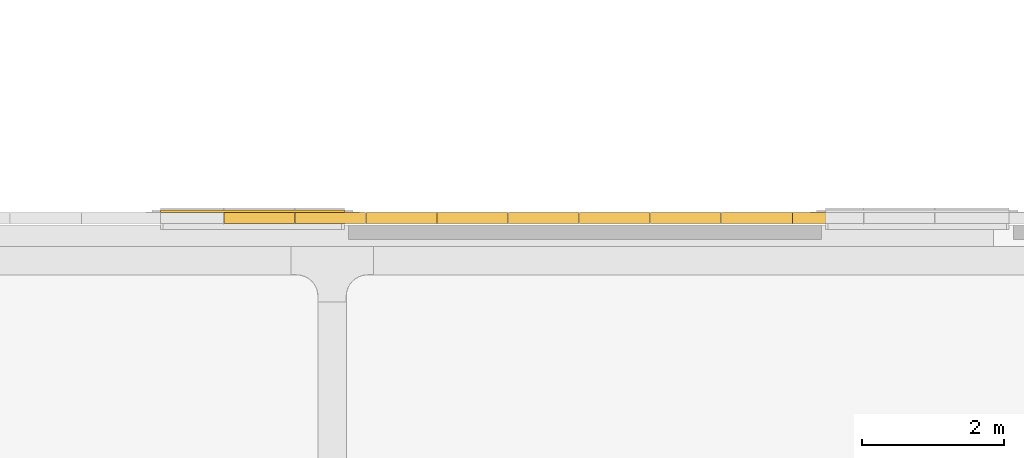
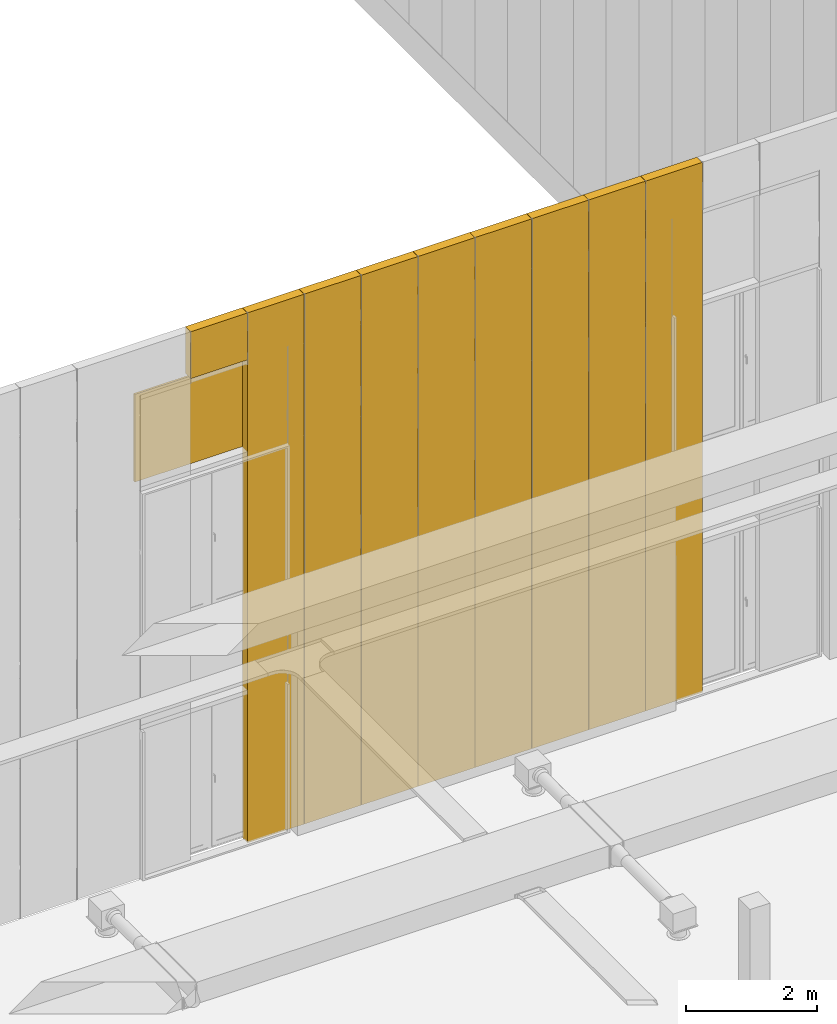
# One storey, part 235 of 302: 10 curtain walls, 1 element without a shape of its own.
"""IFC2X3 building model written with IfcOpenShell, lengths in metres."""

from ifc_helpers import new_model, entity, si_unit, converted_unit, derived_unit, direction, frame, frame_2d, origin, place, context, subcontext, project, spatial, rectangle, extrude, material, layer, layer_set, layer_usage, type_object, element, aggregate, save


model = new_model("IFC2X3")

# Units and contexts
model_context = context("Model", 3, precision=1e-05, world=origin(), true_north=direction((6.12303176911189e-17, 1.0)))
body_context = subcontext(model_context, "Body", "Model", "MODEL_VIEW")
ifc_project = project(units=[si_unit("LENGTHUNIT", "METRE"), si_unit("AREAUNIT", "SQUARE_METRE"), si_unit("VOLUMEUNIT", "CUBIC_METRE"), converted_unit("PLANEANGLEUNIT", "DEGREE", entity("IfcRatioMeasure", 0.0174532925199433), si_unit("PLANEANGLEUNIT", "RADIAN"), dimensions=[0, 0, 0, 0, 0, 0, 0]), si_unit("MASSUNIT", "GRAM", prefix="KILO"), derived_unit("MASSDENSITYUNIT", [(si_unit("MASSUNIT", "GRAM", prefix="KILO"), 1), (si_unit("LENGTHUNIT", "METRE"), -3)]), derived_unit("MOMENTOFINERTIAUNIT", [(si_unit("LENGTHUNIT", "METRE"), 4)]), si_unit("TIMEUNIT", "SECOND"), si_unit("FREQUENCYUNIT", "HERTZ"), si_unit("THERMODYNAMICTEMPERATUREUNIT", "DEGREE_CELSIUS"), derived_unit("THERMALTRANSMITTANCEUNIT", [(si_unit("MASSUNIT", "GRAM", prefix="KILO"), 1), (si_unit("THERMODYNAMICTEMPERATUREUNIT", "KELVIN"), -1), (si_unit("TIMEUNIT", "SECOND"), -3)]), derived_unit("VOLUMETRICFLOWRATEUNIT", [(si_unit("LENGTHUNIT", "METRE"), 3), (si_unit("TIMEUNIT", "SECOND"), -1)]), si_unit("ELECTRICCURRENTUNIT", "AMPERE"), si_unit("ELECTRICVOLTAGEUNIT", "VOLT"), si_unit("POWERUNIT", "WATT"), si_unit("FORCEUNIT", "NEWTON", prefix="KILO"), si_unit("ILLUMINANCEUNIT", "LUX"), si_unit("LUMINOUSFLUXUNIT", "LUMEN"), si_unit("LUMINOUSINTENSITYUNIT", "CANDELA"), derived_unit("USERDEFINED", [(si_unit("MASSUNIT", "GRAM", prefix="KILO"), -1), (si_unit("LENGTHUNIT", "METRE"), -2), (si_unit("TIMEUNIT", "SECOND"), 3), (si_unit("LUMINOUSFLUXUNIT", "LUMEN"), 1)]), derived_unit("LINEARVELOCITYUNIT", [(si_unit("LENGTHUNIT", "METRE"), 1), (si_unit("TIMEUNIT", "SECOND"), -1)]), si_unit("PRESSUREUNIT", "PASCAL"), derived_unit("USERDEFINED", [(si_unit("LENGTHUNIT", "METRE"), -2), (si_unit("MASSUNIT", "GRAM", prefix="KILO"), 1), (si_unit("TIMEUNIT", "SECOND"), -2)]), derived_unit("LINEARFORCEUNIT", [(si_unit("MASSUNIT", "GRAM", prefix="KILO"), 1), (si_unit("LENGTHUNIT", "METRE"), 1), (si_unit("TIMEUNIT", "SECOND"), -2), (si_unit("LENGTHUNIT", "METRE"), -1)]), derived_unit("PLANARFORCEUNIT", [(si_unit("MASSUNIT", "GRAM", prefix="KILO"), 1), (si_unit("LENGTHUNIT", "METRE"), 1), (si_unit("TIMEUNIT", "SECOND"), -2), (si_unit("LENGTHUNIT", "METRE"), -2)])], contexts=[model_context])

# Site, building, storey
site_placement = place(None, origin())
site = spatial("IfcSite", under=ifc_project, at=site_placement, Name="Default", CompositionType="ELEMENT")
building_placement = place(site_placement, origin())
building = spatial("IfcBuilding", under=site, at=building_placement, CompositionType="ELEMENT")
storey_placement = place(building_placement, frame((0.0, 0.0, -1.3)))
storey = spatial("IfcBuildingStorey", under=building, at=storey_placement, Name="00_EG", CompositionType="ELEMENT", Elevation=-1.3)

# Curtain walls
curtain_wall_type_1 = type_object("IfcCurtainWallType", Name="Fassade:Curtain Wall 1", PredefinedType="NOTDEFINED")
curtain_wall_1_placement = place(storey_placement, frame((0.0, 0.0, 1.3)))
curtain_wall_1 = element("IfcCurtainWall", 1, at=curtain_wall_1_placement, inside=storey, type_object=curtain_wall_type_1, Name="Fassade:Curtain Wall 1", ObjectType="Fassade:Curtain Wall 1")
ifc_material_1 = material(Name="Prepainted_Steel-ArcelorMittal_Construction_HAIRULTRA-35-CORAL-4309-[RAL_3000]")
ifc_layer_1 = layer(ifc_material_1, 0.015)
ifc_material_2 = material(Name="ArcelorMittal-MineralWool")
ifc_layer_2 = layer(ifc_material_2, 0.13)
ifc_material_3 = material(Name="Prepainted_Steel-ArcelorMittal_Construction_INTÉRIEUR-12-WHITE-912")
ifc_layer_3 = layer(ifc_material_3, 0.015)
ifc_layer_set_1 = layer_set([ifc_layer_1, ifc_layer_2, ifc_layer_3], Name="Fassade:Sandwichpaneele 16cm")
ifc_layer_usage_1 = layer_usage(ifc_layer_set_1, "AXIS2", "POSITIVE", -0.08)
curtain_wall_type_2 = type_object("IfcCurtainWallType", Name="Basiswand:Sandwichpaneele d = 16cm aussen", PredefinedType="NOTDEFINED", material=ifc_layer_set_1)
curtain_wall_2_placement = place(storey_placement, frame((-213.612611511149, 45.658088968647, 1.27), z_axis=(0.0, 0.0, 1.0), x_axis=(-1.0, 0.0, 0.0)))
curtain_wall_2 = element("IfcCurtainWall", 2, at=curtain_wall_2_placement, type_object=curtain_wall_type_2, material=ifc_layer_usage_1, Name="Basiswand:Sandwichpaneele d = 16cm aussen", ObjectType="Basiswand:Sandwichpaneele d = 16cm aussen", context=body_context, shape_type="SweptSolid", body=[
    extrude(rectangle(XDim=0.994999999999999, YDim=0.159999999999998, at=frame_2d((0.4975, 0.0), x_axis=(-1.0, 0.0))), origin(), (0.0, 0.0, 1.0), 9.8509),
])
ifc_layer_usage_2 = layer_usage(ifc_layer_set_1, "AXIS2", "POSITIVE", -0.08)
curtain_wall_3_placement = place(storey_placement, frame((-214.612611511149, 45.658088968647, 1.27), z_axis=(0.0, 0.0, 1.0), x_axis=(-1.0, 0.0, 0.0)))
curtain_wall_3 = element("IfcCurtainWall", 3, at=curtain_wall_3_placement, type_object=curtain_wall_type_2, material=ifc_layer_usage_2, Name="Basiswand:Sandwichpaneele d = 16cm aussen", ObjectType="Basiswand:Sandwichpaneele d = 16cm aussen", context=body_context, shape_type="SweptSolid", body=[
    extrude(rectangle(XDim=0.994999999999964, YDim=0.159999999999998, at=frame_2d((0.497499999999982, 0.0), x_axis=(-1.0, 0.0))), origin(), (0.0, 0.0, 1.0), 9.8509),
])
ifc_layer_usage_3 = layer_usage(ifc_layer_set_1, "AXIS2", "POSITIVE", -0.08)
curtain_wall_4_placement = place(storey_placement, frame((-215.612611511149, 45.658088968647, 1.27), z_axis=(0.0, 0.0, 1.0), x_axis=(-1.0, 0.0, 0.0)))
curtain_wall_4 = element("IfcCurtainWall", 4, at=curtain_wall_4_placement, type_object=curtain_wall_type_2, material=ifc_layer_usage_3, Name="Basiswand:Sandwichpaneele d = 16cm aussen", ObjectType="Basiswand:Sandwichpaneele d = 16cm aussen", context=body_context, shape_type="SweptSolid", body=[
    extrude(rectangle(XDim=0.994999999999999, YDim=0.159999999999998, at=frame_2d((0.4975, 0.0), x_axis=(-1.0, 0.0))), origin(), (0.0, 0.0, 1.0), 9.8509),
])
ifc_layer_usage_4 = layer_usage(ifc_layer_set_1, "AXIS2", "POSITIVE", -0.08)
curtain_wall_5_placement = place(storey_placement, frame((-216.612611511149, 45.658088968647, 1.27), z_axis=(0.0, 0.0, 1.0), x_axis=(-1.0, 0.0, 0.0)))
curtain_wall_5 = element("IfcCurtainWall", 5, at=curtain_wall_5_placement, type_object=curtain_wall_type_2, material=ifc_layer_usage_4, Name="Basiswand:Sandwichpaneele d = 16cm aussen", ObjectType="Basiswand:Sandwichpaneele d = 16cm aussen", context=body_context, shape_type="SweptSolid", body=[
    extrude(rectangle(XDim=0.994999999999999, YDim=0.159999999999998, at=frame_2d((0.4975, 0.0), x_axis=(-1.0, 0.0))), origin(), (0.0, 0.0, 1.0), 9.8509),
])
ifc_layer_usage_5 = layer_usage(ifc_layer_set_1, "AXIS2", "POSITIVE", -0.08)
curtain_wall_6_placement = place(storey_placement, frame((-217.612611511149, 45.658088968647, 1.27), z_axis=(0.0, 0.0, 1.0), x_axis=(-1.0, 0.0, 0.0)))
curtain_wall_6 = element("IfcCurtainWall", 6, at=curtain_wall_6_placement, type_object=curtain_wall_type_2, material=ifc_layer_usage_5, Name="Basiswand:Sandwichpaneele d = 16cm aussen", ObjectType="Basiswand:Sandwichpaneele d = 16cm aussen", context=body_context, shape_type="SweptSolid", body=[
    extrude(rectangle(XDim=0.994999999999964, YDim=0.159999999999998, at=frame_2d((0.497499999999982, 0.0), x_axis=(-1.0, 0.0))), origin(), (0.0, 0.0, 1.0), 9.8509),
])
ifc_layer_usage_6 = layer_usage(ifc_layer_set_1, "AXIS2", "POSITIVE", -0.08)
curtain_wall_7_placement = place(storey_placement, frame((-218.612611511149, 45.658088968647, 1.27), z_axis=(0.0, 0.0, 1.0), x_axis=(-1.0, 0.0, 0.0)))
curtain_wall_7 = element("IfcCurtainWall", 7, at=curtain_wall_7_placement, type_object=curtain_wall_type_2, material=ifc_layer_usage_6, Name="Basiswand:Sandwichpaneele d = 16cm aussen", ObjectType="Basiswand:Sandwichpaneele d = 16cm aussen", context=body_context, shape_type="SweptSolid", body=[
    extrude(rectangle(XDim=0.994999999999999, YDim=0.159999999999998, at=frame_2d((0.4975, 0.0), x_axis=(-1.0, 0.0))), origin(), (0.0, 0.0, 1.0), 9.8509),
])
ifc_layer_usage_7 = layer_usage(ifc_layer_set_1, "AXIS2", "POSITIVE", -0.08)
curtain_wall_8_placement = place(storey_placement, frame((-219.612611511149, 45.658088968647, 1.27), z_axis=(0.0, 0.0, 1.0), x_axis=(-1.0, 0.0, 0.0)))
curtain_wall_8 = element("IfcCurtainWall", 8, at=curtain_wall_8_placement, type_object=curtain_wall_type_2, material=ifc_layer_usage_7, Name="Basiswand:Sandwichpaneele d = 16cm aussen", ObjectType="Basiswand:Sandwichpaneele d = 16cm aussen", context=body_context, shape_type="SweptSolid", body=[
    extrude(rectangle(XDim=0.994999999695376, YDim=0.159999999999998, at=frame_2d((0.497499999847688, 0.0), x_axis=(-1.0, 0.0))), origin(), (0.0, 0.0, 1.0), 9.8509),
])
ifc_layer_usage_8 = layer_usage(ifc_layer_set_1, "AXIS2", "POSITIVE", -0.08)
curtain_wall_9_placement = place(storey_placement, frame((-212.61261151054, 45.658088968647, 1.27), z_axis=(0.0, 0.0, 1.0), x_axis=(-1.0, 0.0, 0.0)))
curtain_wall_9 = element("IfcCurtainWall", 9, at=curtain_wall_9_placement, type_object=curtain_wall_type_2, material=ifc_layer_usage_8, Name="Basiswand:Sandwichpaneele d = 16cm aussen", ObjectType="Basiswand:Sandwichpaneele d = 16cm aussen", context=body_context, shape_type="SweptSolid", body=[
    extrude(rectangle(XDim=0.995000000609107, YDim=0.159999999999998, at=frame_2d((0.497500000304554, 0.0), x_axis=(-1.0, 0.0))), origin(), (0.0, 0.0, 1.0), 9.8509),
])
ifc_layer_usage_9 = layer_usage(ifc_layer_set_1, "AXIS2", "POSITIVE", -0.08)
curtain_wall_10_placement = place(storey_placement, frame((-220.612611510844, 45.658088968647, 10.2496475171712), z_axis=(0.0, 0.0, 1.0), x_axis=(-1.0, 0.0, 0.0)))
curtain_wall_10 = element("IfcCurtainWall", 10, at=curtain_wall_10_placement, type_object=curtain_wall_type_2, material=ifc_layer_usage_9, Name="Basiswand:Sandwichpaneele d = 16cm aussen", ObjectType="Basiswand:Sandwichpaneele d = 16cm aussen", context=body_context, shape_type="SweptSolid", body=[
    extrude(rectangle(XDim=0.994999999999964, YDim=0.159999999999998, at=frame_2d((0.497499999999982, 0.0), x_axis=(-1.0, 0.0))), origin(), (0.0, 0.0, 1.0), 0.871252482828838),
])
ifc_material_4 = material(Name="Glass")
ifc_layer_4 = layer(ifc_material_4, 0.035)
ifc_layer_set_2 = layer_set([ifc_layer_4], Name="Fassade:Sandwichpaneele 16cm")
ifc_layer_usage_10 = layer_usage(ifc_layer_set_2, "AXIS2", "POSITIVE", -0.0175)
curtain_wall_type_3 = type_object("IfcCurtainWallType", Name="Basiswand:Glass", PredefinedType="NOTDEFINED", material=ifc_layer_set_2)
curtain_wall_11_placement = place(storey_placement, frame((-219.912611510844, 45.755588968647, 8.53999999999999), z_axis=(0.0, 0.0, 1.0), x_axis=(-1.0, 0.0, 0.0)))
curtain_wall_11 = element("IfcCurtainWall", 11, at=curtain_wall_11_placement, type_object=curtain_wall_type_3, material=ifc_layer_usage_10, Name="Basiswand:Glass", ObjectType="Basiswand:Glass", context=body_context, shape_type="SweptSolid", body=[
    extrude(rectangle(XDim=2.58500000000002, YDim=0.034999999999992, at=frame_2d((1.29250000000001, 0.0), x_axis=(-1.0, 0.0))), origin(), (0.0, 0.0, 1.0), 1.62964751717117),
])
aggregate(curtain_wall_1, [curtain_wall_2, curtain_wall_3, curtain_wall_4, curtain_wall_5, curtain_wall_6, curtain_wall_7, curtain_wall_8, curtain_wall_11, curtain_wall_9, curtain_wall_10])

save(model, "model.ifc")
